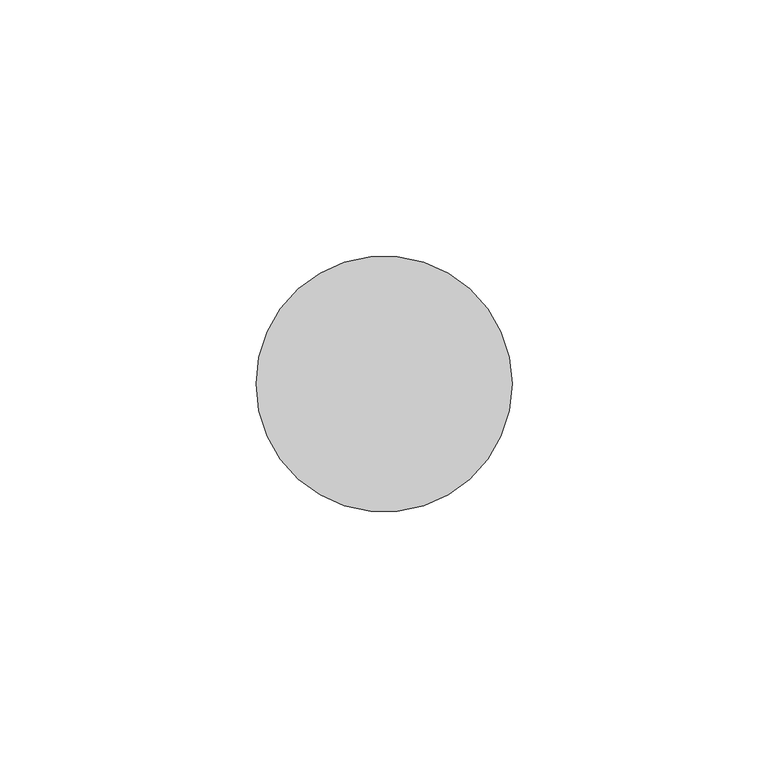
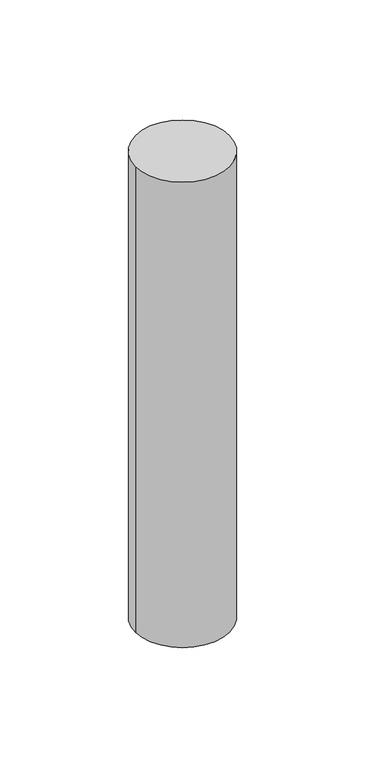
"""IFC4 building model written with IfcOpenShell, lengths in millimetres: member geometry, 圓形豎框 : 25mm 半徑."""

from ifc_helpers import new_model, si_unit, point, frame, origin, origin_2d, place, context, project, spatial, circle_curve, trimmed, segment, composite_curve, outline, extrude, source, transform, mapped, element, save


def member_9c463893(model_context):
    return source(origin(), model_context, "Body", "SweptSolid", [
        extrude(outline(composite_curve([segment(trimmed(circle_curve(origin_2d(), 25.0), [point((25.0, 0.0))], [point((-25.0, 0.0))], False, "CARTESIAN"), True, "CONTINUOUS"), segment(trimmed(circle_curve(origin_2d(), 25.0), [point((-25.0, 0.0))], [point((25.0, 0.0))], False, "CARTESIAN"), True, "CONTINUOUS")], self_intersect=False)), frame((0.0, 0.0, -261.8045405), z_axis=(0.0, 0.0, 1.0), x_axis=(1.0, 0.0, 0.0)), (0.0, 0.0, 1.0), 261.8045405),
    ])


if __name__ == "__main__":
    model = new_model("IFC4")
    model_context = context("Model", 3, world=origin())
    ifc_project = project(units=[si_unit("LENGTHUNIT", "METRE", prefix="MILLI")], contexts=[model_context])
    site = spatial("IfcSite", under=ifc_project)
    building = spatial("IfcBuilding", under=site)
    placement = place(None, origin())
    member_shape = member_9c463893(model_context)
    element("IfcMember", 1, ObjectType="圓形豎框 : 25mm 半徑", at=placement, inside=building, context=model_context, shape_type="MappedRepresentation", body=[
        mapped(member_shape, transform((0.0, 0.0, 0.0), x_axis=(1.0, 0.0, 0.0), y_axis=(0.0, 1.0, 0.0), z_axis=(0.0, 0.0, 1.0))),
    ])
    save(model, "model.ifc")
